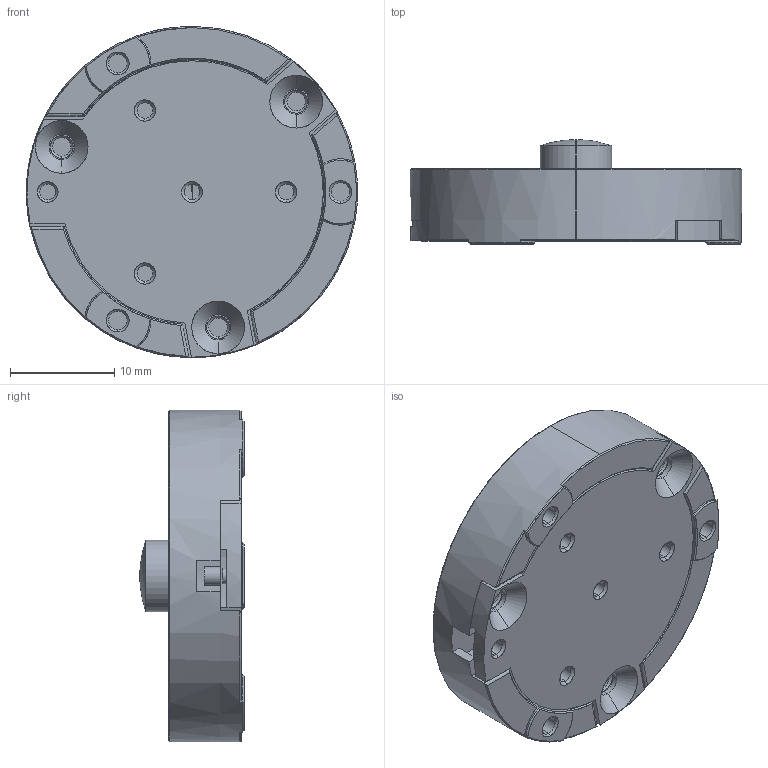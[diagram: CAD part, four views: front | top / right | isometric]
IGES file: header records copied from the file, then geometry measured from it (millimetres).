
Start section: SolidWorks IGES file using analytic representation for surfaces
Global section: file name: C:\Documents and Settings\Soundar\My Documents\Solidworks Files\iLoad Mini\dome\for customer\iload mini dome.IGS; native system: SolidWorks 2009; preprocessor: SolidWorks 2009; author: Soundar; date: 120430.131323; units: inch
Bounding box: 31.75 x 10.01 x 31.75 mm (x, y, z)
Surface area: 2923.3 mm2 (no closed solid volume)
Topology: 0 solids, 0 shells, 147 faces, 1517 edges, 1516 vertices
Faces by surface type: revolution 116, bspline 31
